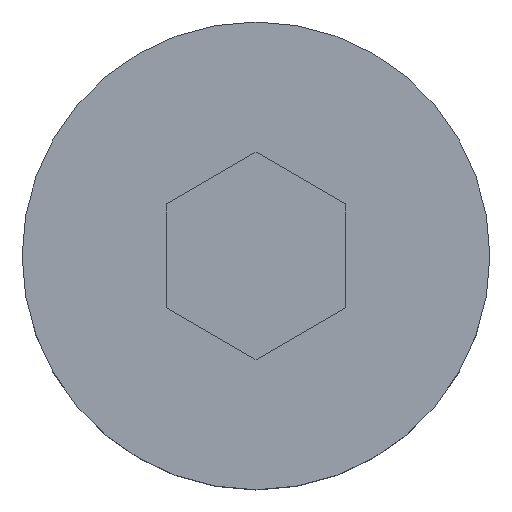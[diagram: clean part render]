
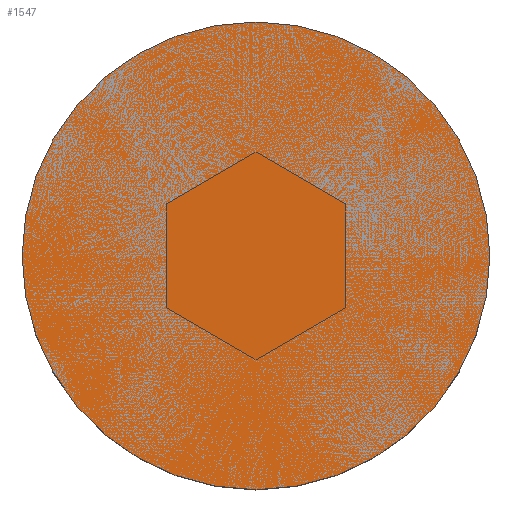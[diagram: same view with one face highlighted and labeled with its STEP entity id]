
A CAD part, top view. The second image highlights one B-rep face of the part: STEP entity #1547.
In plain terms, the highlighted planar face has unit normal (0, 0, 1).
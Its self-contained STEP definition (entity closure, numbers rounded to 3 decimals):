
#260 = DIRECTION ( 'NONE',  ( 1., 0., 0. ) ) ;
#265 = DIRECTION ( 'NONE',  ( 0., 0., 1. ) ) ;
#269 = CARTESIAN_POINT ( 'NONE',  ( 0., 0., 8. ) ) ;
#431 = CIRCLE ( 'NONE', #1550, 13. ) ;
#455 = DIRECTION ( 'NONE',  ( -1., 0., 0. ) ) ;
#521 = CARTESIAN_POINT ( 'NONE',  ( -13., 0., 8. ) ) ;
#546 = EDGE_LOOP ( 'NONE', ( #1355, #552 ) ) ;
#552 = ORIENTED_EDGE ( 'NONE', *, *, #847, .T. ) ;
#570 = DIRECTION ( 'NONE',  ( 0., 0., -1. ) ) ;
#578 = CARTESIAN_POINT ( 'NONE',  ( 13., 0., 8. ) ) ;
#753 = EDGE_CURVE ( 'NONE', #1123, #1456, #431, .T. ) ;
#755 = FACE_OUTER_BOUND ( 'NONE', #546, .T. ) ;
#777 = CARTESIAN_POINT ( 'NONE',  ( 13., 0., 8. ) ) ;
#847 = EDGE_CURVE ( 'NONE', #1456, #1123, #1152, .T. ) ;
#1025 = AXIS2_PLACEMENT_3D ( 'NONE', #269, #265, #260 ) ;
#1054 = DIRECTION ( 'NONE',  ( 1., 0., 0. ) ) ;
#1060 = DIRECTION ( 'NONE',  ( 0., 0., 1. ) ) ;
#1066 = CARTESIAN_POINT ( 'NONE',  ( 0., 0., 8. ) ) ;
#1123 = VERTEX_POINT ( 'NONE', #777 ) ;
#1152 = CIRCLE ( 'NONE', #1025, 13. ) ;
#1269 = AXIS2_PLACEMENT_3D ( 'NONE', #578, #570, #455 ) ;
#1355 = ORIENTED_EDGE ( 'NONE', *, *, #753, .T. ) ;
#1405 = PLANE ( 'NONE',  #1269 ) ;
#1456 = VERTEX_POINT ( 'NONE', #521 ) ;
#1547 = ADVANCED_FACE ( 'NONE', ( #755 ), #1405, .F. ) ;
#1550 = AXIS2_PLACEMENT_3D ( 'NONE', #1066, #1060, #1054 ) ;
